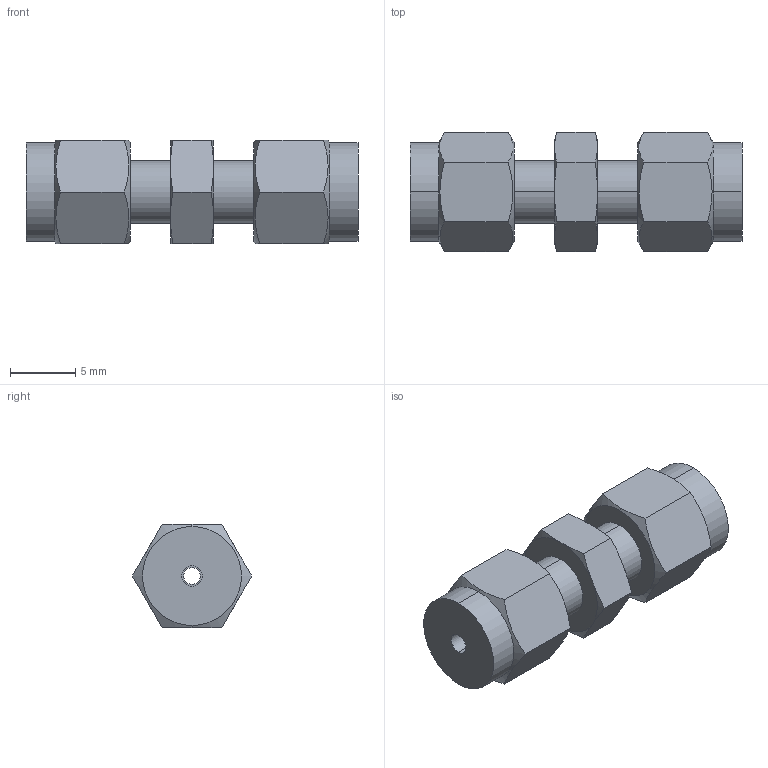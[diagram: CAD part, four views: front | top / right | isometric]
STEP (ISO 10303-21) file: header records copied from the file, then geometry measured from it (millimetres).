
FILE_DESCRIPTION (( 'STEP AP203' ), '1' );
FILE_NAME ('DUA01 SS.STEP', '2009-09-08T10:21:43', ( ' ' ), ( '' ), 'SwSTEP 2.0', 'SolidWorks 2008', '' );
FILE_SCHEMA (( 'CONFIG_CONTROL_DESIGN' ));
Length unit declared in the file: millimetre
Products named in the file (1): DUA01 SS
Bounding box: 25.5 x 9.17 x 7.94 mm (x, y, z)
Volume: 1074.3 mm3; surface area: 960 mm2
Topology: 1 solids, 1 shells, 60 faces, 140 edges, 88 vertices
Faces by surface type: plane 26, cone 20, cylinder 14
Entity records: 1933 total; most frequent: CARTESIAN_POINT 553, ORIENTED_EDGE 280, DIRECTION 250, EDGE_CURVE 140, AXIS2_PLACEMENT_3D 105, VERTEX_POINT 88, EDGE_LOOP 68, FACE_OUTER_BOUND 60
